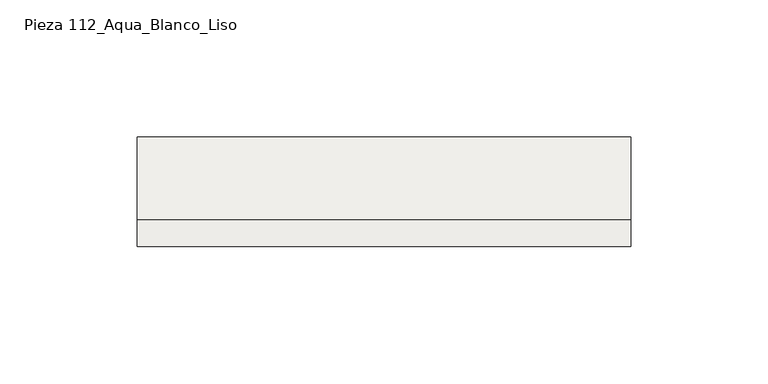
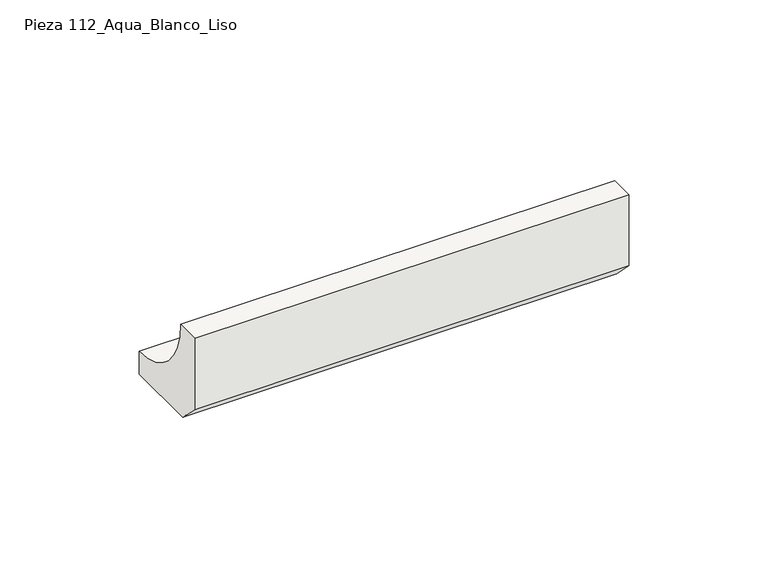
"""IFC4 building model written with IfcOpenShell, lengths in millimetres: slab geometry, ROSA GRES_112 : Pieza 112_Aqua_Blanco_Liso."""

from ifc_helpers import new_model, si_unit, point, frame, frame_2d, origin, place, context, project, spatial, polyline, circle_curve, trimmed, segment, composite_curve, outline, extrude, source, transform, mapped, element, save


def pieza_112_aqua_blanco_liso_26c74400(model_context):
    return source(origin(), model_context, "Body", "SweptSolid", [
        extrude(outline(composite_curve([segment(polyline([(-9.9734114, 8.7114978), (-9.9734114, 40.0), (0.0, 40.0)]), True, "CONTINUOUS"), segment(trimmed(circle_curve(frame_2d((30.0221432, 39.9955547)), 30.0221435), [point((0.0, 40.0))], [point((30.0265886, 9.9734114))], True, "CARTESIAN"), True, "CONTINUOUS"), segment(polyline([(30.0265886, 9.9734114), (30.0265886, 0.0), (-1.2619137, 0.0), (-9.9734114, 8.7114978)]), True, "CONTINUOUS")], self_intersect=False)), frame((0.0, 0.0, 0.0), z_axis=(1.0, 0.0, 0.0), x_axis=(0.0, 1.0, 0.0)), (0.0, 0.0, 1.0), 180.0),
    ])


if __name__ == "__main__":
    model = new_model("IFC4")
    model_context = context("Model", 3, world=origin())
    ifc_project = project(units=[si_unit("LENGTHUNIT", "METRE", prefix="MILLI")], contexts=[model_context])
    site = spatial("IfcSite", under=ifc_project)
    building = spatial("IfcBuilding", under=site)
    placement = place(None, origin())
    pieza_112_aqua_blanco_liso_shape = pieza_112_aqua_blanco_liso_26c74400(model_context)
    element("IfcSlab", 1, ObjectType="ROSA GRES_112 : Pieza 112_Aqua_Blanco_Liso", at=placement, inside=building, context=model_context, shape_type="MappedRepresentation", body=[
        mapped(pieza_112_aqua_blanco_liso_shape, transform((0.0, 0.0, 0.0), x_axis=(1.0, 0.0, 0.0), y_axis=(0.0, 1.0, 0.0), z_axis=(0.0, 0.0, 1.0))),
    ])
    save(model, "model.ifc")
